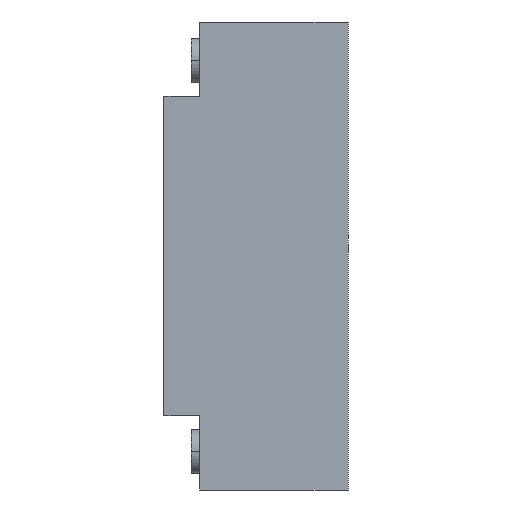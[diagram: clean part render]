
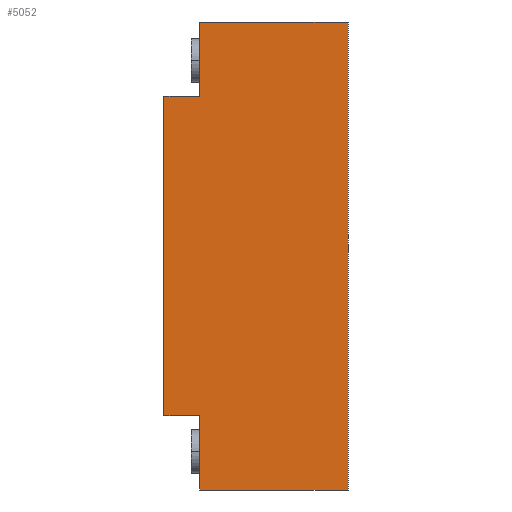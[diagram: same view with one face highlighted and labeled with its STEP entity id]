
A CAD part, left-side view. The second image highlights one B-rep face of the part: STEP entity #5052.
In plain terms, the highlighted planar face has unit normal (-1, 0, 0).
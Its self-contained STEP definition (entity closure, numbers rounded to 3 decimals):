
#1=DIRECTION('',(0.,1.,0.));
#2=VECTOR('',#1,34.9);
#3=CARTESIAN_POINT('',(-364.1,0.,-55.));
#4=LINE('',#3,#2);
#5=DIRECTION('',(0.,0.,1.));
#6=VECTOR('',#5,17.5);
#7=CARTESIAN_POINT('',(-364.1,34.9,-55.));
#8=LINE('',#7,#6);
#9=DIRECTION('',(0.,1.,0.));
#10=VECTOR('',#9,8.4);
#11=CARTESIAN_POINT('',(-364.1,34.9,-37.5));
#12=LINE('',#11,#10);
#13=DIRECTION('',(0.,0.,1.));
#14=VECTOR('',#13,75.);
#15=CARTESIAN_POINT('',(-364.1,43.3,-37.5));
#16=LINE('',#15,#14);
#17=DIRECTION('',(0.,-1.,0.));
#18=VECTOR('',#17,8.4);
#19=CARTESIAN_POINT('',(-364.1,43.3,37.5));
#20=LINE('',#19,#18);
#21=DIRECTION('',(0.,0.,1.));
#22=VECTOR('',#21,17.5);
#23=CARTESIAN_POINT('',(-364.1,34.9,37.5));
#24=LINE('',#23,#22);
#25=DIRECTION('',(0.,-1.,0.));
#26=VECTOR('',#25,34.9);
#27=CARTESIAN_POINT('',(-364.1,34.9,55.));
#28=LINE('',#27,#26);
#29=DIRECTION('',(0.,0.,-1.));
#30=VECTOR('',#29,110.);
#31=CARTESIAN_POINT('',(-364.1,0.,55.));
#32=LINE('',#31,#30);
#3841=CARTESIAN_POINT('',(-364.1,0.,-55.));
#3842=CARTESIAN_POINT('',(-364.1,34.9,-55.));
#3843=VERTEX_POINT('',#3841);
#3844=VERTEX_POINT('',#3842);
#3845=CARTESIAN_POINT('',(-364.1,34.9,-37.5));
#3846=VERTEX_POINT('',#3845);
#3847=CARTESIAN_POINT('',(-364.1,43.3,-37.5));
#3848=VERTEX_POINT('',#3847);
#3849=CARTESIAN_POINT('',(-364.1,43.3,37.5));
#3850=VERTEX_POINT('',#3849);
#3851=CARTESIAN_POINT('',(-364.1,34.9,37.5));
#3852=VERTEX_POINT('',#3851);
#3853=CARTESIAN_POINT('',(-364.1,34.9,55.));
#3854=VERTEX_POINT('',#3853);
#3855=CARTESIAN_POINT('',(-364.1,0.,55.));
#3856=VERTEX_POINT('',#3855);
#5029=CARTESIAN_POINT('',(-364.1,0.,0.));
#5030=DIRECTION('',(1.,0.,0.));
#5031=DIRECTION('',(0.,-1.,0.));
#5032=AXIS2_PLACEMENT_3D('',#5029,#5030,#5031);
#5033=PLANE('',#5032);
#5035=ORIENTED_EDGE('',*,*,#5034,.T.);
#5037=ORIENTED_EDGE('',*,*,#5036,.T.);
#5039=ORIENTED_EDGE('',*,*,#5038,.T.);
#5041=ORIENTED_EDGE('',*,*,#5040,.T.);
#5043=ORIENTED_EDGE('',*,*,#5042,.T.);
#5045=ORIENTED_EDGE('',*,*,#5044,.T.);
#5047=ORIENTED_EDGE('',*,*,#5046,.T.);
#5049=ORIENTED_EDGE('',*,*,#5048,.T.);
#5050=EDGE_LOOP('',(#5035,#5037,#5039,#5041,#5043,#5045,#5047,#5049));
#5051=FACE_OUTER_BOUND('',#5050,.F.);
#5052=ADVANCED_FACE('',(#5051),#5033,.F.);
#5034=EDGE_CURVE('',#3843,#3844,#4,.T.);
#5036=EDGE_CURVE('',#3844,#3846,#8,.T.);
#5038=EDGE_CURVE('',#3846,#3848,#12,.T.);
#5040=EDGE_CURVE('',#3848,#3850,#16,.T.);
#5042=EDGE_CURVE('',#3850,#3852,#20,.T.);
#5044=EDGE_CURVE('',#3852,#3854,#24,.T.);
#5046=EDGE_CURVE('',#3854,#3856,#28,.T.);
#5048=EDGE_CURVE('',#3856,#3843,#32,.T.);
